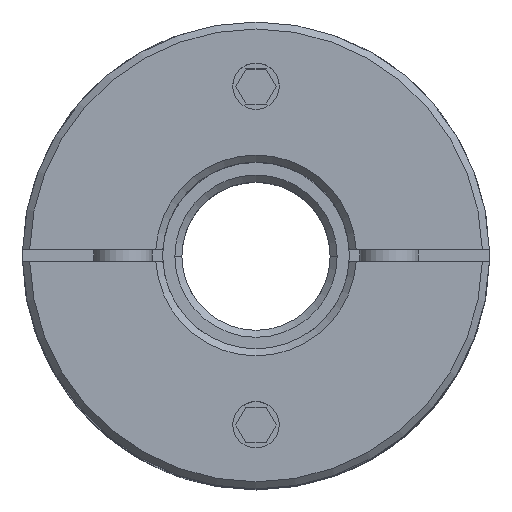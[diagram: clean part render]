
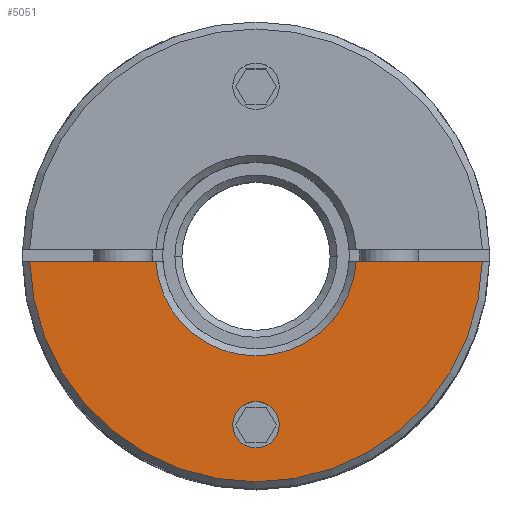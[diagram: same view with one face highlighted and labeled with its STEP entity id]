
A CAD part, top view. The second image highlights one B-rep face of the part: STEP entity #5051.
In plain terms, the highlighted planar face has unit normal (0, 0, 1).
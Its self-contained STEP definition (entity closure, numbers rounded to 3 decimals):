
#2663=CARTESIAN_POINT('',(-1.,-7.25,14.0));
#2664=VERTEX_POINT('',#2663);
#2673=CARTESIAN_POINT('',(1.,-7.25,14.0));
#2674=VERTEX_POINT('',#2673);
#2675=CARTESIAN_POINT('',(0.,-7.25,14.0));
#2676=DIRECTION('',(0.0,0.0,-1.0));
#2677=DIRECTION('',(-1.0,0.0,0.0));
#2678=AXIS2_PLACEMENT_3D('',#2675,#2676,#2677);
#2679=CIRCLE('',#2678,1.0);
#2680=EDGE_CURVE('',#2674,#2664,#2679,.T.);
#4257=CARTESIAN_POINT('',(-4.293,-0.25,14.0));
#4258=VERTEX_POINT('',#4257);
#4272=CARTESIAN_POINT('',(4.293,-0.25,14.0));
#4273=VERTEX_POINT('',#4272);
#4274=CARTESIAN_POINT('',(0.,0.,14.0));
#4275=DIRECTION('',(0.0,0.0,1.0));
#4276=DIRECTION('',(-1.0,0.0,0.0));
#4277=AXIS2_PLACEMENT_3D('',#4274,#4275,#4276);
#4278=CIRCLE('',#4277,4.3);
#4279=EDGE_CURVE('',#4258,#4273,#4278,.T.);
#4312=CARTESIAN_POINT('',(-9.697,-0.25,14.0));
#4313=VERTEX_POINT('',#4312);
#4327=CARTESIAN_POINT('',(-4.293,-0.25,14.0));
#4328=DIRECTION('',(-1.0,0.0,0.0));
#4329=VECTOR('',#4328,5.404);
#4330=LINE('',#4327,#4329);
#4331=EDGE_CURVE('',#4258,#4313,#4330,.T.);
#4456=CARTESIAN_POINT('',(9.697,-0.25,14.0));
#4457=VERTEX_POINT('',#4456);
#4471=CARTESIAN_POINT('',(0.,0.,14.0));
#4472=DIRECTION('',(0.0,0.0,-1.0));
#4473=DIRECTION('',(-1.0,0.0,0.0));
#4474=AXIS2_PLACEMENT_3D('',#4471,#4472,#4473);
#4475=CIRCLE('',#4474,9.7);
#4476=EDGE_CURVE('',#4457,#4313,#4475,.T.);
#4487=CARTESIAN_POINT('',(9.697,-0.25,14.0));
#4488=DIRECTION('',(-1.0,0.0,0.0));
#4489=VECTOR('',#4488,5.404);
#4490=LINE('',#4487,#4489);
#4491=EDGE_CURVE('',#4457,#4273,#4490,.T.);
#5030=CARTESIAN_POINT('',(-0.909,0.,14.0));
#5031=DIRECTION('',(0.0,0.0,1.0));
#5032=DIRECTION('',(-1.0,0.0,0.0));
#5033=AXIS2_PLACEMENT_3D('',#5030,#5031,#5032);
#5034=PLANE('',#5033);
#5035=ORIENTED_EDGE('',*,*,#4279,.F.);
#5036=ORIENTED_EDGE('',*,*,#4331,.T.);
#5037=ORIENTED_EDGE('',*,*,#4476,.F.);
#5038=ORIENTED_EDGE('',*,*,#4491,.T.);
#5039=EDGE_LOOP('',(#5035,#5036,#5037,#5038));
#5040=FACE_OUTER_BOUND('',#5039,.T.);
#5041=CARTESIAN_POINT('',(0.,-7.25,14.0));
#5042=DIRECTION('',(0.0,0.0,-1.0));
#5043=DIRECTION('',(-1.0,0.0,0.0));
#5044=AXIS2_PLACEMENT_3D('',#5041,#5042,#5043);
#5045=CIRCLE('',#5044,1.0);
#5046=EDGE_CURVE('',#2664,#2674,#5045,.T.);
#5047=ORIENTED_EDGE('',*,*,#5046,.T.);
#5048=ORIENTED_EDGE('',*,*,#2680,.T.);
#5049=EDGE_LOOP('',(#5047,#5048));
#5050=FACE_BOUND('',#5049,.T.);
#5051=ADVANCED_FACE('',(#5040,#5050),#5034,.T.);
